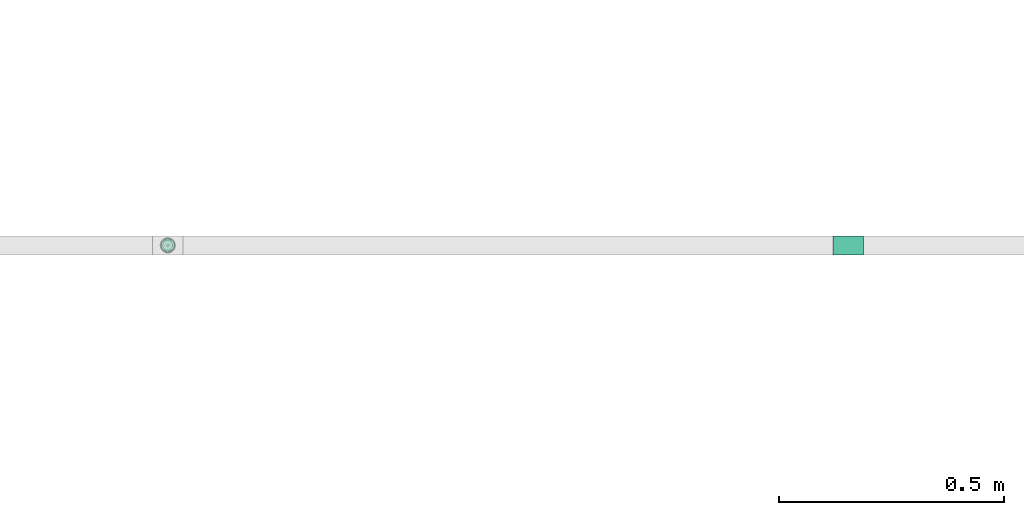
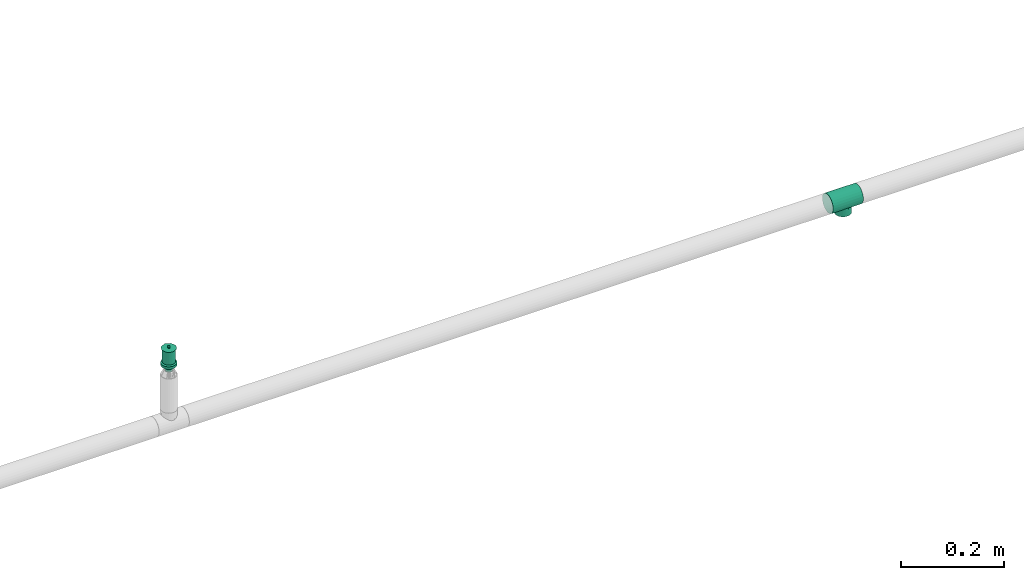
# One storey, part 65 of 94: 1 flow fitting, 1 flow terminal.
"""IFC2X3 building model written with IfcOpenShell, lengths in millimetres."""

from ifc_helpers import new_model, entity, si_unit, converted_unit, derived_unit, direction, frame, origin_with_axes, place, context, subcontext, project, spatial, open_shell, surface_model, source, transform, mapped, type_object, element, save


model = new_model("IFC2X3")

# Units and contexts
model_context = context("Model", 3, precision=0.01, world=frame((0.0, 4.29681676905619e-09, 0.0)), true_north=direction((4.01073788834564e-13, 1.0)))
plan_context = context("Plan", 3, precision=0.01, world=frame((0.0, 4.29681676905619e-09, 0.0)), true_north=direction((4.01073788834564e-13, 1.0)))
body_context = subcontext(model_context, "Body", "Model", "MODEL_VIEW")
ifc_project = project(units=[converted_unit("PLANEANGLEUNIT", "DEGREE", entity("IfcPositiveLengthMeasure", 0.0174532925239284), si_unit("PLANEANGLEUNIT", "RADIAN"), dimensions=[0, 0, 0, 0, 0, 0, 0]), si_unit("AREAUNIT", "SQUARE_METRE"), si_unit("LENGTHUNIT", "METRE", prefix="MILLI"), si_unit("MASSUNIT", "GRAM", prefix="KILO"), si_unit("POWERUNIT", "WATT"), si_unit("PRESSUREUNIT", "PASCAL"), si_unit("FORCEUNIT", "NEWTON", prefix="KILO"), si_unit("ELECTRICCURRENTUNIT", "AMPERE"), si_unit("THERMODYNAMICTEMPERATUREUNIT", "DEGREE_CELSIUS"), si_unit("TIMEUNIT", "SECOND"), si_unit("VOLUMEUNIT", "CUBIC_METRE"), derived_unit("LINEARVELOCITYUNIT", [(si_unit("LENGTHUNIT", "METRE"), 1), (si_unit("TIMEUNIT", "SECOND"), -1)]), derived_unit("VOLUMETRICFLOWRATEUNIT", [(si_unit("VOLUMEUNIT", "CUBIC_METRE"), 1), (si_unit("TIMEUNIT", "SECOND"), -1)]), derived_unit("THERMALTRANSMITTANCEUNIT", [(si_unit("POWERUNIT", "WATT"), 1), (si_unit("THERMODYNAMICTEMPERATUREUNIT", "KELVIN"), -1), (si_unit("AREAUNIT", "SQUARE_METRE"), -1)])], contexts=[model_context, plan_context])

# Site, building, storey
site_placement = place(None, frame((0.0, -4.29681676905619e-09, 0.0), z_axis=(0.0, 0.0, 1.0), x_axis=(1.0, 0.0, 0.0)))
site = spatial("IfcSite", under=ifc_project, at=site_placement, CompositionType="ELEMENT")
building_placement = place(site_placement, frame((0.0, 4.29681676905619e-09, 0.0), z_axis=(0.0, 0.0, 1.0), x_axis=(1.0, 0.0, 0.0)))
building = spatial("IfcBuilding", under=site, at=building_placement, Name="mc-building", CompositionType="ELEMENT")
storey_placement = place(building_placement, frame((0.0, 0.0, 200300.0), z_axis=(0.0, 0.0, 1.0), x_axis=(1.0, 0.0, 0.0)))
storey = spatial("IfcBuildingStorey", under=building, at=storey_placement, Name="Nivå C", CompositionType="ELEMENT", Elevation=200300.0)

# Flow fitting
pipe_fitting_type = type_object("IfcPipeFittingType", Name="magi_pipe_fe_tee_centric_90_NOR", PredefinedType="JUNCTION")
shared_shape_1 = source(origin_with_axes(), body_context, "Body", "SurfaceModel", [
    surface_model("IfcShellBasedSurfaceModel", [(-33.8, 0.0, -21.2), (-33.8, -5.48696, -20.47763), (-33.8, 5.48696, -20.47763), (-33.8, 10.6, -18.35974), (-33.8, 14.99066, -14.99066), (-33.8, -20.47763, 5.48696), (-33.8, 18.35974, -10.6), (-33.8, 10.6, 18.35974), (-33.8, -14.99066, -14.99066), (-33.8, -18.35974, -10.6), (-33.8, -10.6, -18.35974), (-33.8, -20.47763, -5.48696), (-33.8, -21.2, 0.0), (-33.8, 18.35974, 10.6), (-33.8, 20.47763, -5.48696), (-33.8, 20.47763, 5.48696), (-33.8, 21.2, 0.0), (-33.8, 14.99066, 14.99066), (-33.8, 5.48696, 20.47763), (-33.8, 0.0, 21.2), (-33.8, -18.35974, 10.6), (-33.8, -14.99066, 14.99066), (-33.8, -10.6, 18.35974), (-33.8, -5.48696, 20.47763), (33.8, 5.48696, -20.47763), (33.8, -5.48696, -20.47763), (33.8, 0.0, -21.2), (33.8, 14.99066, -14.99066), (33.8, 10.6, -18.35974), (33.8, 18.35974, -10.6), (33.8, 20.47763, -5.48696), (33.8, -21.2, 0.0), (33.8, -10.6, -18.35974), (33.8, -18.35974, -10.6), (33.8, -14.99066, -14.99066), (33.8, -20.47763, -5.48696), (33.8, -20.47763, 5.48696), (33.8, 21.2, 0.0), (33.8, 20.47763, 5.48696), (33.8, 18.35974, 10.6), (33.8, 10.6, 18.35974), (33.8, 14.99066, 14.99066), (33.8, 0.0, 21.2), (33.8, 5.48696, 20.47763), (33.8, -14.99066, 14.99066), (33.8, -18.35974, 10.6), (33.8, -10.6, 18.35974), (33.8, -5.48696, 20.47763), (16.9, -21.2, 0.0), (15.78624, -20.32327, 6.03364), (12.81343, -18.11115, 11.01935), (8.52479, -15.37862, 14.59239), (3.07939, -13.16482, 16.61708), (-16.9, -21.2, 0.0), (-15.78686, -20.32375, 6.032), (-8.52604, -15.37932, 14.59166), (-3.0848, -13.16609, 16.61608), (-12.81602, -18.11299, 11.01634), (3.07939, -13.16482, -16.61708), (12.81343, -18.11115, -11.01935), (8.52479, -15.37862, -14.59239), (15.78624, -20.32327, -6.03364), (-3.0848, -13.16609, -16.61608), (-8.52604, -15.37932, -14.59166), (-12.81602, -18.11299, -11.01634), (-15.78686, -20.32375, -6.032), (4.37404, -31.8, -16.32415), (-16.9, -31.8, 0.0), (0.0, -31.8, -16.9), (14.63583, -31.8, -8.45), (8.45, -31.8, -14.63583), (16.32415, -31.8, -4.37404), (11.9501, -31.8, -11.9501), (-11.9501, -31.8, -11.9501), (-8.45, -31.8, -14.63583), (-4.37404, -31.8, -16.32415), (-14.63583, -31.8, -8.45), (-16.32415, -31.8, -4.37404), (16.9, -31.8, 0.0), (8.45, -31.8, 14.63583), (16.32415, -31.8, 4.37404), (14.63583, -31.8, 8.45), (-8.45, -31.8, 14.63583), (11.9501, -31.8, 11.9501), (4.37404, -31.8, 16.32415), (-16.32415, -31.8, 4.37404), (-11.9501, -31.8, 11.9501), (-14.63583, -31.8, 8.45), (0.0, -31.8, 16.9), (-4.37404, -31.8, 16.32415), (-16.34343, -20.76188, 3.016), (16.34312, -20.76163, 3.01682), (-0.00271, -13.16546, 16.61658), (16.34312, -20.76163, -3.01682), (-0.00271, -13.16546, -16.61658), (-16.34343, -20.76188, -3.016)], [open_shell([[[0, 1, 2]], [[3, 2, 4]], [[5, 2, 1]], [[4, 2, 6]], [[6, 2, 7]], [[8, 9, 10]], [[1, 10, 9]], [[9, 11, 1]], [[12, 1, 11]], [[5, 1, 12]], [[13, 14, 6]], [[13, 15, 16]], [[6, 7, 13]], [[5, 7, 2]], [[17, 13, 7]], [[18, 7, 19]], [[20, 21, 5]], [[22, 5, 21]], [[23, 19, 22]], [[7, 5, 22]], [[22, 19, 7]], [[16, 14, 13]], [[24, 25, 26]], [[27, 24, 28]], [[29, 30, 24]], [[29, 24, 27]], [[31, 24, 30]], [[32, 33, 34]], [[33, 32, 25]], [[33, 31, 35]], [[31, 33, 25]], [[25, 24, 31]], [[30, 36, 31]], [[37, 38, 39]], [[37, 39, 40]], [[37, 40, 36]], [[40, 39, 41]], [[42, 40, 43]], [[36, 44, 45]], [[44, 36, 46]], [[46, 42, 47]], [[46, 36, 40]], [[40, 42, 46]], [[37, 36, 30]], [[31, 36, 48]], [[49, 48, 36]], [[36, 45, 49]], [[45, 44, 50]], [[51, 50, 44]], [[52, 51, 44]], [[44, 46, 52]], [[45, 50, 49]], [[53, 54, 5]], [[5, 12, 53]], [[54, 20, 5]], [[55, 56, 21]], [[20, 57, 21]], [[57, 20, 54]], [[21, 57, 55]], [[56, 22, 21]], [[52, 22, 56]], [[19, 47, 42]], [[23, 46, 47]], [[18, 42, 43]], [[39, 38, 15]], [[17, 40, 41]], [[13, 41, 39]], [[43, 40, 7]], [[16, 38, 37]], [[22, 46, 23]], [[23, 47, 19]], [[18, 19, 42]], [[43, 7, 18]], [[7, 40, 17]], [[13, 17, 41]], [[15, 13, 39]], [[38, 16, 15]], [[46, 22, 52]], [[6, 30, 29]], [[14, 37, 30]], [[4, 29, 27]], [[26, 25, 1]], [[2, 28, 24]], [[0, 24, 26]], [[27, 28, 3]], [[10, 25, 32]], [[16, 37, 14]], [[14, 30, 6]], [[4, 6, 29]], [[27, 3, 4]], [[3, 28, 2]], [[0, 2, 24]], [[1, 0, 26]], [[25, 10, 1]], [[32, 58, 10]], [[34, 59, 60]], [[59, 34, 33]], [[60, 58, 34]], [[34, 58, 32]], [[35, 31, 48]], [[35, 61, 33]], [[61, 35, 48]], [[33, 61, 59]], [[62, 63, 8]], [[8, 64, 9]], [[64, 8, 63]], [[62, 8, 10]], [[65, 53, 11]], [[65, 11, 9]], [[11, 53, 12]], [[65, 9, 64]], [[58, 62, 10]], [[66, 67, 68]], [[69, 66, 70]], [[69, 71, 66]], [[69, 70, 72]], [[67, 66, 71]], [[68, 73, 74]], [[74, 75, 68]], [[76, 67, 77]], [[73, 68, 76]], [[67, 76, 68]], [[71, 78, 67]], [[79, 78, 80]], [[79, 80, 81]], [[82, 67, 79]], [[79, 81, 83]], [[82, 79, 84]], [[85, 86, 87]], [[86, 85, 82]], [[82, 88, 89]], [[85, 67, 82]], [[84, 88, 82]], [[79, 67, 78]], [[85, 90, 67]], [[57, 87, 86]], [[85, 87, 54]], [[86, 82, 55]], [[85, 54, 90]], [[90, 53, 67]], [[54, 87, 57]], [[91, 49, 80]], [[55, 89, 56]], [[55, 57, 86]], [[88, 52, 92]], [[55, 82, 89]], [[52, 88, 84]], [[79, 51, 84]], [[50, 83, 81]], [[83, 51, 79]], [[81, 80, 49]], [[83, 50, 51]], [[51, 52, 84]], [[78, 91, 80]], [[49, 50, 81]], [[91, 78, 48]], [[88, 56, 89]], [[92, 56, 88]], [[71, 93, 78]], [[59, 69, 72]], [[71, 69, 61]], [[72, 70, 60]], [[93, 48, 78]], [[61, 69, 59]], [[60, 66, 58]], [[60, 59, 72]], [[68, 62, 94]], [[60, 70, 66]], [[95, 67, 53]], [[95, 65, 77]], [[71, 61, 93]], [[75, 62, 68]], [[65, 76, 77]], [[73, 76, 64]], [[68, 58, 66]], [[75, 63, 62]], [[63, 75, 74]], [[74, 73, 63]], [[63, 73, 64]], [[64, 76, 65]], [[67, 95, 77]], [[94, 58, 68]]])]),
])
flow_fitting_placement = place(storey_placement, frame((529007.26147, 416298.62756, 2850.0), z_axis=(0.0, 1.0, 0.0), x_axis=(-1.0, 0.0, 0.0)))
element("IfcFlowFitting", 1, at=flow_fitting_placement, inside=storey, type_object=pipe_fitting_type, Name="magi_pipe_fe_tee_centric_90_NOR", context=body_context, shape_type="MappedRepresentation", body=[
    mapped(shared_shape_1, transform((0.0, 0.0, 0.0), scale=1.0)),
])

# Flow terminal
fire_suppression_terminal_type = type_object("IfcFireSuppressionTerminalType", Name="68DGR-STD-STÅENDE", PredefinedType="NOTDEFINED")
shared_shape_2 = source(origin_with_axes(), body_context, "Body", "SurfaceModel", [
    surface_model("IfcShellBasedSurfaceModel", [(12.55704, 3.36465, 21.14766), (13.0, 0.0, 21.14766), (12.55704, -3.36465, 21.14766), (-12.55704, -3.36465, 21.14766), (-11.25833, -6.5, 21.14766), (-11.25833, -6.5, 51.0), (3.36465, -12.55704, 51.0), (3.36465, -12.55704, 21.14766), (6.5, -11.25833, 21.14766), (9.19239, -9.19239, 21.14766), (11.25833, -6.5, 21.14766), (9.19239, -9.19239, 51.0), (6.5, -11.25833, 51.0), (11.25833, -6.5, 51.0), (12.55704, -3.36465, 51.0), (13.0, 0.0, 51.0), (9.19239, 9.19239, 51.0), (11.25833, 6.5, 21.14766), (9.19239, 9.19239, 21.14766), (11.25833, 6.5, 51.0), (12.55704, 3.36465, 51.0), (6.5, 11.25833, 51.0), (6.5, 11.25833, 21.14766), (3.36465, 12.55704, 21.14766), (3.36465, 12.55704, 51.0), (-11.25833, 6.5, 51.0), (-11.25833, 6.5, 21.14766), (-12.55704, 3.36465, 21.14766), (0.0, -2.5, 51.0), (-2.5, 0.0, 51.0), (0.0, 2.5, 51.0), (2.5, 0.0, 51.0), (11.31371, 11.31371, 53.0), (-11.31371, 11.31371, 53.0), (-11.31371, -11.31371, 53.0), (11.31371, -11.31371, 53.0), (1.62635, 1.62635, 51.0), (2.16506, 1.25, 51.0), (1.99186, 1.15, 51.0), (-1.76777, 1.76777, 51.0), (-1.25, 2.16506, 51.0), (-1.62635, 1.62635, 51.0), (1.99186, -1.15, 51.0), (2.16506, -1.25, 51.0), (1.62635, -1.62635, 51.0), (-1.62635, -1.62635, 51.0), (-1.25, -2.16506, 51.0), (-1.76777, -1.76777, 51.0), (0.0, 7.3, 0.0), (1.94114, 7.24444, 0.0), (1.88938, 7.05126, 0.0), (5.16188, 5.16188, 0.0), (6.49519, 3.75, 0.0), (6.32199, 3.65, 0.0), (-5.3033, 5.3033, 0.0), (-3.75, 6.49519, 0.0), (-5.16188, 5.16188, 0.0), (6.32199, -3.65, 0.0), (6.49519, -3.75, 0.0), (5.16188, -5.16188, 0.0), (1.88938, -7.05126, 0.0), (1.94114, -7.24444, 0.0), (0.0, -7.3, 0.0), (-5.16188, -5.16188, 0.0), (-3.75, -6.49519, 0.0), (-5.3033, -5.3033, 0.0), (-3.36465, 12.55704, 51.0), (-6.5, 11.25833, 51.0), (0.0, 13.0, 51.0), (-9.19239, 9.19239, 51.0), (0.0, -13.0, 51.0), (-9.19239, -9.19239, 51.0), (-12.55704, -3.36465, 51.0), (-6.5, -11.25833, 51.0), (-3.36465, -12.55704, 51.0), (-7.5, 0.0, -0.1), (-7.24444, 1.94114, 0.1), (-7.24444, 1.94114, -0.1), (-6.49519, 3.75, 0.1), (-6.49519, 3.75, -0.1), (-3.75, 6.49519, -0.1), (-5.3033, 5.3033, -0.1), (-3.75, 6.49519, 0.1), (-5.3033, 5.3033, 0.1), (-1.94114, 7.24444, -0.1), (-1.94114, 7.24444, 0.1), (-7.5, 0.0, 0.1), (0.0, 7.5, 0.1), (0.0, 7.5, -0.1), (1.94114, 7.24444, 0.1), (1.94114, 7.24444, -0.1), (3.75, 6.49519, 0.1), (3.75, 6.49519, -0.1), (6.49519, 3.75, -0.1), (5.3033, 5.3033, -0.1), (6.49519, 3.75, 0.1), (5.3033, 5.3033, 0.1), (7.24444, 1.94114, -0.1), (7.24444, 1.94114, 0.1), (7.5, 0.0, 0.1), (7.5, 0.0, -0.1), (-7.24444, -1.94114, 0.1), (7.24444, -1.94114, 0.1), (5.3033, -5.3033, 0.1), (6.49519, -3.75, 0.1), (-6.49519, -3.75, 0.1), (0.0, -7.5, 0.1), (1.94114, -7.24444, 0.1), (3.75, -6.49519, 0.1), (-3.75, -6.49519, 0.1), (-1.94114, -7.24444, 0.1), (-5.3033, -5.3033, 0.1), (0.0, -7.5, -0.1), (-6.49519, -3.75, -0.1), (1.94114, -7.24444, -0.1), (3.75, -6.49519, -0.1), (5.3033, -5.3033, -0.1), (7.24444, -1.94114, -0.1), (6.49519, -3.75, -0.1), (-3.75, -6.49519, -0.1), (-5.3033, -5.3033, -0.1), (-1.94114, -7.24444, -0.1), (-7.24444, -1.94114, -0.1), (16.0, 0.0, 53.0), (0.0, -16.0, 53.0), (-16.0, 0.0, 53.0), (0.0, 16.0, 53.0), (0.64705, 2.41481, 57.0), (0.0, 2.5, 57.0), (1.25, 2.16506, 57.0), (-2.5, 0.0, 57.0), (1.76777, 1.76777, 57.0), (2.41481, 0.64705, 57.0), (2.16506, 1.25, 57.0), (-0.64705, 2.41481, 57.0), (-1.25, 2.16506, 57.0), (-1.76777, 1.76777, 57.0), (-2.16506, 1.25, 57.0), (-2.41481, 0.64705, 57.0), (2.5, 0.0, 57.0), (1.76777, -1.76777, 57.0), (2.16506, -1.25, 57.0), (2.41481, -0.64705, 57.0), (-2.41481, -0.64705, 57.0), (0.64705, -2.41481, 57.0), (1.25, -2.16506, 57.0), (0.0, -2.5, 57.0), (-1.76777, -1.76777, 57.0), (-2.16506, -1.25, 57.0), (-1.25, -2.16506, 57.0), (-0.64705, -2.41481, 57.0), (1.15, -1.99186, 51.0), (1.76777, -1.76777, 51.0), (1.25, -2.16506, 51.0), (0.59528, -2.22163, 51.0), (0.0, -2.3, 51.0), (0.64705, -2.41481, 51.0), (2.22163, -0.59528, 51.0), (2.3, 0.0, 51.0), (2.41481, -0.64705, 51.0), (-0.64705, -2.41481, 51.0), (-0.59528, -2.22163, 51.0), (-1.15, -1.99186, 51.0), (-2.16506, -1.25, 51.0), (-1.99186, -1.15, 51.0), (-2.22163, -0.59528, 51.0), (-2.3, 0.0, 51.0), (-2.41481, -0.64705, 51.0), (2.22163, 0.59528, 51.0), (2.41481, 0.64705, 51.0), (1.76777, 1.76777, 51.0), (1.15, 1.99186, 51.0), (1.25, 2.16506, 51.0), (0.59528, 2.22163, 51.0), (0.0, 2.3, 51.0), (0.64705, 2.41481, 51.0), (-1.99186, 1.15, 51.0), (-2.16506, 1.25, 51.0), (-2.41481, 0.64705, 51.0), (-2.22163, 0.59528, 51.0), (-0.64705, 2.41481, 51.0), (-0.59528, 2.22163, 51.0), (-1.15, 1.99186, 51.0), (-2.22163, 0.59528, 56.8), (-1.99186, 1.15, 56.8), (-1.15, 1.99186, 56.8), (-1.62635, 1.62635, 56.8), (-0.59528, 2.22163, 56.8), (-2.3, 0.0, 56.8), (0.0, 2.3, 56.8), (0.59528, 2.22163, 56.8), (1.15, 1.99186, 56.8), (1.99186, 1.15, 56.8), (1.62635, 1.62635, 56.8), (2.22163, 0.59528, 56.8), (2.3, 0.0, 56.8), (2.22163, -0.59528, 56.8), (1.99186, -1.15, 56.8), (1.62635, -1.62635, 56.8), (1.15, -1.99186, 56.8), (0.59528, -2.22163, 56.8), (0.0, -2.3, 56.8), (-1.99186, -1.15, 56.8), (-2.22163, -0.59528, 56.8), (-1.62635, -1.62635, 56.8), (-0.59528, -2.22163, 56.8), (-1.15, -1.99186, 56.8), (8.0, -13.85641, 13.0), (4.1411, -15.45481, 13.0), (0.0, -16.0, 13.0), (-4.1411, -15.45481, 13.0), (15.45481, -4.1411, 13.0), (13.85641, -8.0, 13.0), (11.31371, -11.31371, 13.0), (-16.0, 0.0, 13.0), (-8.0, -13.85641, 13.0), (-11.31371, -11.31371, 13.0), (-13.85641, -8.0, 13.0), (-15.45481, -4.1411, 13.0), (15.45481, 4.1411, 13.0), (4.1411, 15.45481, 13.0), (13.85641, 8.0, 13.0), (8.0, 13.85641, 13.0), (11.31371, 11.31371, 13.0), (-15.45481, 4.1411, 13.0), (-11.31371, 11.31371, 13.0), (-8.0, 13.85641, 13.0), (-13.85641, 8.0, 13.0), (-4.1411, 15.45481, 13.0), (0.0, 16.0, 13.0), (16.0, 0.0, 13.0), (7.05126, 1.88938, 12.8), (1.88938, 7.05126, 12.8), (3.65, 6.32199, 12.8), (6.32199, 3.65, 12.8), (5.16188, 5.16188, 12.8), (7.3, 0.0, 12.8), (0.0, 7.3, 12.8), (-3.65, 6.32199, 12.8), (-1.88938, 7.05126, 12.8), (-5.16188, 5.16188, 12.8), (-7.05126, 1.88938, 12.8), (-6.32199, 3.65, 12.8), (7.05126, -1.88938, 12.8), (0.0, -7.3, 12.8), (6.32199, -3.65, 12.8), (3.65, -6.32199, 12.8), (5.16188, -5.16188, 12.8), (1.88938, -7.05126, 12.8), (-7.3, 0.0, 12.8), (-6.32199, -3.65, 12.8), (-7.05126, -1.88938, 12.8), (-1.88938, -7.05126, 12.8), (-5.16188, -5.16188, 12.8), (-3.65, -6.32199, 12.8), (-7.05126, 1.88938, 0.0), (-7.3, 0.0, 0.0), (-6.32199, 3.65, 0.0), (-3.65, 6.32199, 0.0), (-1.88938, 7.05126, 0.0), (3.65, 6.32199, 0.0), (7.05126, 1.88938, 0.0), (7.3, 0.0, 0.0), (3.75, 6.49519, 13.0), (1.94114, 7.24444, 13.0), (7.5, 0.0, 13.0), (5.3033, 5.3033, 13.0), (7.24444, 1.94114, 13.0), (6.49519, 3.75, 13.0), (-5.3033, 5.3033, 13.0), (-7.24444, -1.94114, 13.0), (-1.94114, 7.24444, 13.0), (-3.75, 6.49519, 13.0), (0.0, 7.5, 13.0), (-6.49519, 3.75, 13.0), (-7.24444, 1.94114, 13.0), (7.24444, -1.94114, 13.0), (5.3033, -5.3033, 13.0), (6.49519, -3.75, 13.0), (-6.49519, -3.75, 13.0), (0.0, -7.5, 13.0), (1.94114, -7.24444, 13.0), (3.75, -6.49519, 13.0), (-7.5, 0.0, 13.0), (-3.75, -6.49519, 13.0), (-1.94114, -7.24444, 13.0), (-5.3033, -5.3033, 13.0), (3.65, -6.32199, 0.0), (5.3033, -5.3033, 0.0), (3.75, -6.49519, 0.0), (0.0, -7.5, 0.0), (7.05126, -1.88938, 0.0), (7.24444, -1.94114, 0.0), (7.5, 0.0, 0.0), (-1.94114, -7.24444, 0.0), (-1.88938, -7.05126, 0.0), (-3.65, -6.32199, 0.0), (-6.49519, -3.75, 0.0), (-6.32199, -3.65, 0.0), (-7.05126, -1.88938, 0.0), (-7.24444, -1.94114, 0.0), (-7.5, 0.0, 0.0), (7.24444, 1.94114, 0.0), (5.3033, 5.3033, 0.0), (3.75, 6.49519, 0.0), (0.0, 7.5, 0.0), (-6.49519, 3.75, 0.0), (-7.24444, 1.94114, 0.0), (-1.94114, 7.24444, 0.0), (-12.55704, 3.36465, 51.0), (-13.0, 0.0, 51.0), (0.0, -13.0, 21.14766), (-3.36465, -12.55704, 21.14766), (-6.5, -11.25833, 21.14766), (-9.19239, -9.19239, 21.14766), (-13.0, 0.0, 21.14766), (-9.19239, 9.19239, 21.14766), (-6.5, 11.25833, 21.14766), (-3.36465, 12.55704, 21.14766), (0.0, 13.0, 21.14766), (11.31371, 11.31371, 19.0), (8.0, 13.85641, 19.0), (4.1411, 15.45481, 19.0), (-8.0, 13.85641, 19.0), (16.0, 0.0, 19.0), (15.45481, 4.1411, 19.0), (13.85641, 8.0, 19.0), (-4.1411, 15.45481, 19.0), (0.0, 16.0, 19.0), (-11.31371, 11.31371, 19.0), (-13.85641, 8.0, 19.0), (-15.45481, 4.1411, 19.0), (15.45481, -4.1411, 19.0), (11.31371, -11.31371, 19.0), (13.85641, -8.0, 19.0), (-16.0, 0.0, 19.0), (0.0, -16.0, 19.0), (4.1411, -15.45481, 19.0), (8.0, -13.85641, 19.0), (-13.85641, -8.0, 19.0), (-11.31371, -11.31371, 19.0), (-15.45481, -4.1411, 19.0), (-8.0, -13.85641, 19.0), (-4.1411, -15.45481, 19.0)], [open_shell([[[0, 1, 2]], [[3, 4, 5]], [[6, 7, 8]], [[9, 10, 11]], [[9, 11, 12]], [[10, 13, 11]], [[14, 13, 2]], [[1, 15, 14]], [[16, 17, 18]], [[0, 19, 20]], [[20, 15, 1]], [[21, 16, 18]], [[22, 23, 24]], [[16, 19, 17]], [[25, 26, 27]], [[28, 29, 30]], [[30, 31, 28]], [[31, 30, 32]], [[33, 30, 29]], [[29, 28, 34]], [[35, 28, 31]], [[36, 37, 38]], [[39, 40, 41]], [[42, 43, 44]], [[45, 46, 47]], [[48, 49, 50]], [[51, 52, 53]], [[54, 55, 56]], [[57, 58, 59]], [[60, 61, 62]], [[63, 64, 65]], [[66, 67, 68]], [[67, 24, 68]], [[69, 25, 67]], [[15, 20, 14]], [[70, 6, 12]], [[5, 71, 72]], [[73, 74, 71]], [[72, 71, 74]], [[75, 76, 77]], [[77, 78, 79]], [[80, 81, 82]], [[83, 81, 79]], [[84, 80, 85]], [[76, 78, 77]], [[75, 86, 76]], [[80, 82, 85]], [[82, 81, 83]], [[79, 78, 83]], [[84, 85, 87]], [[87, 88, 84]], [[88, 89, 90]], [[90, 91, 92]], [[93, 94, 95]], [[96, 94, 92]], [[97, 93, 98]], [[91, 96, 92]], [[90, 89, 91]], [[97, 98, 99]], [[98, 93, 95]], [[94, 96, 95]], [[97, 99, 100]], [[87, 89, 88]], [[91, 89, 99]], [[96, 91, 98]], [[91, 99, 98]], [[95, 96, 98]], [[89, 83, 101]], [[85, 82, 87]], [[83, 87, 82]], [[78, 76, 83]], [[89, 87, 83]], [[76, 101, 83]], [[102, 99, 89]], [[103, 104, 102]], [[89, 105, 103]], [[103, 106, 107]], [[108, 103, 107]], [[106, 103, 105]], [[89, 101, 105]], [[101, 76, 86]], [[109, 110, 111]], [[105, 111, 110]], [[106, 105, 110]], [[103, 102, 89]], [[112, 113, 114]], [[115, 114, 116]], [[117, 118, 116]], [[113, 116, 114]], [[116, 113, 117]], [[119, 120, 121]], [[113, 121, 120]], [[121, 113, 112]], [[113, 122, 117]], [[75, 77, 122]], [[100, 117, 122]], [[100, 81, 97]], [[93, 97, 90]], [[90, 92, 94]], [[93, 90, 94]], [[90, 97, 81]], [[79, 81, 77]], [[77, 81, 122]], [[84, 88, 80]], [[81, 80, 88]], [[81, 88, 90]], [[100, 122, 81]], [[100, 102, 117]], [[117, 104, 118]], [[115, 116, 108]], [[103, 116, 118]], [[114, 115, 107]], [[102, 104, 117]], [[100, 99, 102]], [[115, 108, 107]], [[108, 116, 103]], [[118, 104, 103]], [[114, 107, 106]], [[106, 112, 114]], [[112, 110, 121]], [[121, 109, 119]], [[113, 120, 105]], [[111, 120, 119]], [[122, 113, 101]], [[109, 111, 119]], [[121, 110, 109]], [[122, 101, 86]], [[101, 113, 105]], [[120, 111, 105]], [[122, 86, 75]], [[106, 110, 112]], [[31, 123, 35]], [[35, 124, 28]], [[124, 34, 28]], [[29, 34, 125]], [[33, 32, 126]], [[33, 125, 124]], [[124, 32, 33]], [[124, 35, 123]], [[124, 125, 34]], [[123, 32, 124]], [[29, 125, 33]], [[33, 126, 30]], [[126, 32, 30]], [[31, 32, 123]], [[127, 128, 129]], [[129, 130, 131]], [[132, 131, 130]], [[133, 131, 132]], [[130, 129, 128]], [[134, 135, 128]], [[136, 128, 135]], [[137, 138, 136]], [[128, 136, 130]], [[138, 130, 136]], [[139, 132, 130]], [[140, 141, 142]], [[143, 140, 139]], [[144, 140, 143]], [[145, 140, 144]], [[146, 144, 147]], [[139, 130, 143]], [[143, 148, 144]], [[149, 150, 147]], [[144, 148, 147]], [[146, 147, 150]], [[140, 142, 139]], [[151, 152, 153]], [[154, 151, 153]], [[155, 154, 156]], [[153, 156, 154]], [[28, 155, 156]], [[44, 152, 151]], [[157, 158, 159]], [[31, 159, 158]], [[43, 157, 159]], [[152, 44, 43]], [[157, 43, 42]], [[160, 161, 28]], [[161, 155, 28]], [[162, 161, 160]], [[160, 46, 162]], [[162, 46, 45]], [[47, 163, 164]], [[165, 164, 163]], [[45, 47, 164]], [[166, 165, 167]], [[163, 167, 165]], [[29, 166, 167]], [[168, 169, 31]], [[38, 169, 168]], [[169, 38, 37]], [[170, 37, 36]], [[171, 172, 170]], [[173, 172, 171]], [[174, 175, 173]], [[172, 173, 175]], [[30, 175, 174]], [[170, 36, 171]], [[39, 176, 177]], [[41, 176, 39]], [[178, 177, 176]], [[178, 179, 29]], [[176, 179, 178]], [[179, 166, 29]], [[180, 30, 181]], [[182, 180, 181]], [[182, 41, 40]], [[180, 182, 40]], [[181, 30, 174]], [[31, 158, 168]], [[29, 138, 178]], [[178, 137, 177]], [[40, 39, 135]], [[136, 39, 177]], [[180, 40, 134]], [[138, 137, 178]], [[29, 130, 138]], [[40, 135, 134]], [[135, 39, 136]], [[177, 137, 136]], [[180, 134, 128]], [[128, 30, 180]], [[30, 127, 175]], [[175, 129, 172]], [[37, 170, 133]], [[131, 170, 172]], [[169, 37, 132]], [[129, 131, 172]], [[175, 127, 129]], [[169, 132, 139]], [[132, 37, 133]], [[170, 131, 133]], [[169, 139, 31]], [[128, 127, 30]], [[179, 183, 166]], [[176, 184, 179]], [[185, 41, 182]], [[176, 41, 186]], [[187, 182, 181]], [[179, 184, 183]], [[183, 188, 166]], [[187, 185, 182]], [[186, 41, 185]], [[186, 184, 176]], [[189, 187, 181]], [[181, 174, 189]], [[173, 190, 174]], [[171, 191, 173]], [[192, 36, 38]], [[171, 36, 193]], [[194, 38, 168]], [[171, 193, 191]], [[191, 190, 173]], [[195, 194, 168]], [[192, 38, 194]], [[192, 193, 36]], [[158, 195, 168]], [[174, 190, 189]], [[31, 142, 159]], [[159, 141, 43]], [[153, 152, 145]], [[140, 152, 43]], [[156, 153, 144]], [[142, 141, 159]], [[31, 139, 142]], [[153, 145, 144]], [[145, 152, 140]], [[43, 141, 140]], [[156, 144, 146]], [[146, 28, 156]], [[28, 150, 160]], [[160, 149, 46]], [[163, 47, 148]], [[147, 47, 46]], [[167, 163, 143]], [[149, 147, 46]], [[160, 150, 149]], [[167, 143, 130]], [[143, 163, 148]], [[47, 147, 148]], [[167, 130, 29]], [[146, 150, 28]], [[190, 191, 193]], [[190, 193, 195]], [[194, 195, 193]], [[194, 193, 192]], [[190, 195, 186]], [[189, 185, 187]], [[185, 189, 186]], [[186, 183, 184]], [[186, 189, 190]], [[186, 196, 183]], [[186, 195, 196]], [[196, 197, 198]], [[196, 198, 199]], [[199, 200, 201]], [[199, 201, 196]], [[196, 201, 202]], [[188, 202, 203]], [[183, 202, 188]], [[204, 205, 206]], [[205, 204, 202]], [[201, 205, 202]], [[202, 183, 196]], [[157, 196, 158]], [[42, 197, 157]], [[199, 44, 151]], [[42, 44, 198]], [[200, 151, 154]], [[157, 197, 196]], [[196, 195, 158]], [[200, 199, 151]], [[198, 44, 199]], [[198, 197, 42]], [[201, 200, 154]], [[154, 155, 201]], [[161, 205, 155]], [[162, 206, 161]], [[202, 45, 164]], [[162, 45, 204]], [[203, 164, 165]], [[162, 204, 206]], [[206, 205, 161]], [[188, 203, 165]], [[202, 164, 203]], [[202, 204, 45]], [[166, 188, 165]], [[155, 205, 201]], [[207, 208, 209]], [[207, 209, 210]], [[211, 212, 213]], [[213, 207, 214]], [[211, 213, 214]], [[215, 216, 210]], [[217, 210, 216]], [[217, 218, 210]], [[218, 207, 210]], [[218, 214, 207]], [[214, 219, 211]], [[220, 219, 214]], [[221, 219, 220]], [[220, 222, 223]], [[221, 220, 223]], [[214, 224, 220]], [[225, 226, 227]], [[224, 227, 226]], [[228, 229, 226]], [[220, 224, 226]], [[226, 229, 220]], [[219, 230, 211]], [[231, 232, 233]], [[234, 233, 235]], [[231, 236, 232]], [[231, 233, 234]], [[232, 236, 237]], [[237, 238, 239]], [[238, 237, 240]], [[240, 241, 242]], [[240, 237, 236]], [[236, 241, 240]], [[236, 243, 241]], [[244, 243, 245]], [[246, 245, 247]], [[246, 248, 244]], [[246, 244, 245]], [[243, 244, 249]], [[249, 250, 251]], [[250, 249, 252]], [[253, 252, 254]], [[252, 253, 250]], [[249, 244, 252]], [[243, 249, 241]], [[255, 241, 256]], [[257, 242, 255]], [[238, 56, 258]], [[257, 56, 240]], [[239, 258, 259]], [[255, 242, 241]], [[241, 249, 256]], [[239, 238, 258]], [[240, 56, 238]], [[240, 242, 257]], [[237, 239, 259]], [[259, 48, 237]], [[50, 232, 48]], [[260, 233, 50]], [[234, 51, 53]], [[260, 51, 235]], [[231, 53, 261]], [[260, 235, 233]], [[233, 232, 50]], [[236, 231, 261]], [[234, 53, 231]], [[234, 235, 51]], [[262, 236, 261]], [[48, 232, 237]], [[263, 264, 265]], [[266, 263, 267]], [[263, 265, 267]], [[268, 266, 267]], [[264, 269, 270]], [[271, 272, 273]], [[269, 273, 272]], [[274, 275, 269]], [[264, 273, 269]], [[275, 270, 269]], [[276, 265, 264]], [[277, 278, 276]], [[264, 279, 277]], [[277, 280, 281]], [[282, 277, 281]], [[280, 277, 279]], [[264, 270, 279]], [[270, 275, 283]], [[284, 285, 286]], [[279, 286, 285]], [[280, 279, 285]], [[277, 276, 264]], [[287, 288, 289]], [[60, 287, 289]], [[290, 62, 61]], [[289, 61, 60]], [[59, 288, 287]], [[291, 262, 292]], [[293, 292, 262]], [[58, 291, 292]], [[288, 59, 58]], [[291, 58, 57]], [[294, 295, 290]], [[296, 295, 294]], [[294, 64, 296]], [[64, 63, 296]], [[295, 62, 290]], [[65, 297, 298]], [[299, 298, 297]], [[63, 65, 298]], [[256, 299, 300]], [[297, 300, 299]], [[301, 256, 300]], [[261, 302, 293]], [[53, 302, 261]], [[302, 53, 52]], [[303, 52, 51]], [[260, 304, 303]], [[50, 304, 260]], [[304, 50, 49]], [[305, 49, 48]], [[303, 51, 260]], [[54, 257, 306]], [[56, 257, 54]], [[307, 306, 257]], [[307, 255, 301]], [[257, 255, 307]], [[255, 256, 301]], [[308, 305, 259]], [[258, 308, 259]], [[55, 258, 56]], [[308, 258, 55]], [[259, 305, 48]], [[293, 262, 261]], [[301, 275, 307]], [[307, 274, 306]], [[55, 54, 272]], [[269, 54, 306]], [[308, 55, 271]], [[275, 274, 307]], [[301, 283, 275]], [[55, 272, 271]], [[272, 54, 269]], [[306, 274, 269]], [[308, 271, 273]], [[273, 305, 308]], [[305, 264, 49]], [[49, 263, 304]], [[52, 303, 268]], [[266, 303, 304]], [[302, 52, 267]], [[263, 266, 304]], [[49, 264, 263]], [[302, 267, 265]], [[267, 52, 268]], [[303, 266, 268]], [[302, 265, 293]], [[273, 264, 305]], [[293, 276, 292]], [[292, 278, 58]], [[289, 288, 282]], [[277, 288, 58]], [[61, 289, 281]], [[276, 278, 292]], [[293, 265, 276]], [[289, 282, 281]], [[282, 288, 277]], [[58, 278, 277]], [[61, 281, 280]], [[280, 290, 61]], [[290, 285, 294]], [[294, 284, 64]], [[297, 65, 279]], [[286, 65, 64]], [[300, 297, 270]], [[284, 286, 64]], [[294, 285, 284]], [[300, 270, 283]], [[270, 297, 279]], [[65, 286, 279]], [[300, 283, 301]], [[280, 285, 290]], [[291, 243, 262]], [[57, 245, 291]], [[246, 59, 287]], [[57, 59, 247]], [[248, 287, 60]], [[291, 245, 243]], [[243, 236, 262]], [[248, 246, 287]], [[247, 59, 246]], [[247, 245, 57]], [[244, 248, 60]], [[60, 62, 244]], [[295, 252, 62]], [[296, 254, 295]], [[250, 63, 298]], [[296, 63, 253]], [[251, 298, 299]], [[296, 253, 254]], [[254, 252, 295]], [[249, 251, 299]], [[250, 298, 251]], [[250, 253, 63]], [[256, 249, 299]], [[62, 252, 244]], [[16, 21, 24]], [[20, 16, 24]], [[24, 67, 72]], [[19, 16, 20]], [[24, 72, 20]], [[25, 72, 67]], [[309, 310, 25]], [[11, 13, 14]], [[72, 11, 20]], [[74, 12, 11]], [[12, 74, 70]], [[72, 25, 310]], [[72, 74, 11]], [[11, 14, 20]], [[8, 7, 311]], [[8, 311, 312]], [[2, 10, 9]], [[3, 9, 8]], [[3, 26, 9]], [[313, 314, 312]], [[3, 312, 314]], [[4, 3, 314]], [[3, 8, 312]], [[315, 26, 3]], [[2, 9, 26]], [[0, 2, 26]], [[17, 0, 18]], [[23, 22, 18]], [[0, 23, 18]], [[23, 0, 26]], [[316, 317, 26]], [[26, 315, 27]], [[318, 319, 317]], [[23, 26, 317]], [[23, 317, 319]], [[316, 26, 25]], [[318, 317, 67]], [[69, 317, 316]], [[319, 318, 66]], [[310, 309, 315]], [[27, 315, 309]], [[25, 27, 309]], [[25, 69, 316]], [[317, 69, 67]], [[67, 66, 318]], [[66, 68, 319]], [[22, 21, 18]], [[0, 17, 19]], [[1, 0, 20]], [[68, 24, 23]], [[24, 21, 22]], [[319, 68, 23]], [[1, 14, 2]], [[2, 13, 10]], [[6, 311, 7]], [[6, 8, 12]], [[12, 8, 9]], [[6, 70, 311]], [[313, 312, 74]], [[313, 73, 314]], [[71, 4, 314]], [[315, 3, 72]], [[70, 74, 312]], [[74, 73, 313]], [[73, 71, 314]], [[71, 5, 4]], [[3, 5, 72]], [[72, 310, 315]], [[311, 70, 312]], [[320, 321, 322]], [[320, 322, 323]], [[320, 324, 325]], [[326, 320, 325]], [[324, 320, 323]], [[327, 323, 328]], [[323, 322, 328]], [[329, 330, 323]], [[331, 323, 330]], [[323, 331, 324]], [[331, 332, 324]], [[333, 334, 332]], [[335, 333, 331]], [[336, 337, 338]], [[335, 338, 333]], [[338, 335, 336]], [[339, 340, 341]], [[335, 341, 340]], [[342, 343, 340]], [[335, 340, 343]], [[343, 336, 335]], [[332, 331, 333]], [[214, 331, 224]], [[224, 330, 227]], [[226, 225, 323]], [[329, 225, 227]], [[228, 226, 327]], [[331, 330, 224]], [[214, 335, 331]], [[226, 323, 327]], [[323, 225, 329]], [[227, 330, 329]], [[228, 327, 328]], [[328, 229, 228]], [[229, 322, 220]], [[220, 321, 222]], [[221, 223, 326]], [[320, 223, 222]], [[219, 221, 325]], [[321, 320, 222]], [[220, 322, 321]], [[219, 325, 324]], [[325, 221, 326]], [[223, 320, 326]], [[219, 324, 230]], [[328, 322, 229]], [[230, 332, 211]], [[211, 334, 212]], [[207, 213, 338]], [[333, 213, 212]], [[208, 207, 337]], [[332, 334, 211]], [[230, 324, 332]], [[207, 338, 337]], [[338, 213, 333]], [[212, 334, 333]], [[208, 337, 336]], [[336, 209, 208]], [[209, 343, 210]], [[210, 342, 215]], [[217, 216, 339]], [[340, 216, 215]], [[218, 217, 341]], [[342, 340, 215]], [[210, 343, 342]], [[218, 341, 335]], [[341, 217, 339]], [[216, 340, 339]], [[218, 335, 214]], [[336, 343, 209]]])]),
])
flow_terminal_placement = place(storey_placement, frame((527497.26879, 416298.62756, 2972.0), z_axis=(0.0, 0.0, 1.0), x_axis=(-1.0, 0.0, 0.0)))
element("IfcFlowTerminal", 2, at=flow_terminal_placement, inside=storey, type_object=fire_suppression_terminal_type, Name="68DGR-STD-STÅENDE", context=body_context, shape_type="MappedRepresentation", body=[
    mapped(shared_shape_2, transform((0.0, 0.0, 0.0), scale=1.0)),
])

save(model, "model.ifc")
